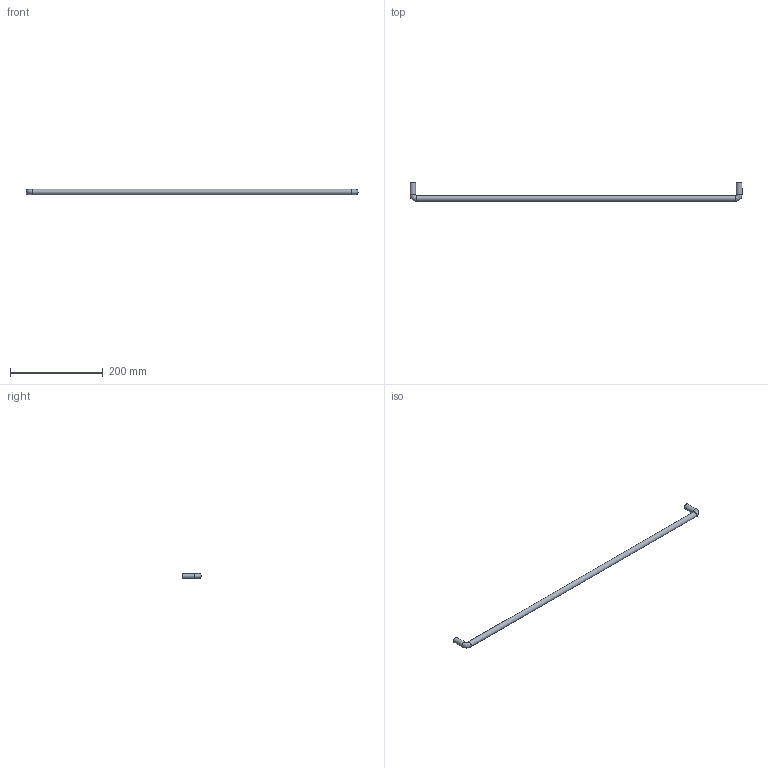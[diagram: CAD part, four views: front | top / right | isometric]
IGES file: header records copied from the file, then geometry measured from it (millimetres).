
Start section: Data from Parasolid IGES Translator 15.0.47, Copyright(c) 2006 Siemens P LM Software. All Rights Reserved.
Global section: file name: 9070122.igs; native system:  By UGS Corp.; preprocessor: XPlus GENERIC/IGES 3.0; author: Noname; organization: Noname; date: 20140122.155501; units: millimetre
Bounding box: 716 x 40 x 12 mm (x, y, z)
Surface area: 29322.3 mm2 (no closed solid volume)
Topology: 0 solids, 0 shells, 11 faces, 42 edges, 38 vertices
Faces by surface type: revolution 7, extrusion 4
